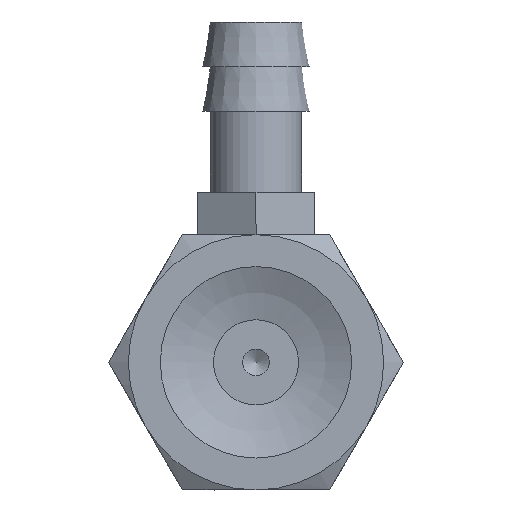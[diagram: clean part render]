
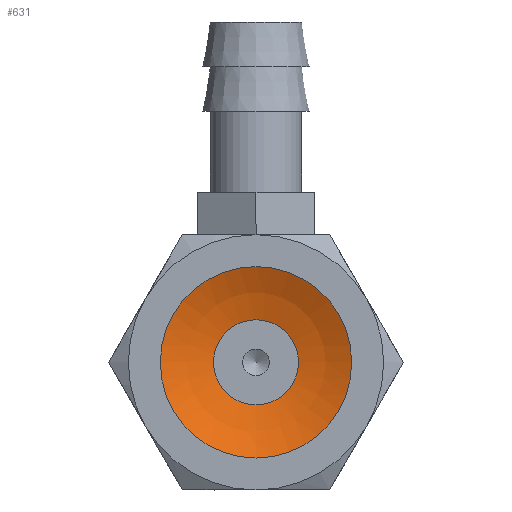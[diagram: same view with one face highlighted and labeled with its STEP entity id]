
A CAD part, front view. The second image highlights one B-rep face of the part: STEP entity #631.
In plain terms, the highlighted spherical face has radius 10.203 mm.
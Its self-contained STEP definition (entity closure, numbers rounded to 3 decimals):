
#631=ADVANCED_FACE('',(#954,#955),#956,.F.);
#954=FACE_OUTER_BOUND('',#1342,.T.);
#955=FACE_OUTER_BOUND('',#1343,.T.);
#956=SPHERICAL_SURFACE('',#1344,10.203);
#1342=EDGE_LOOP('',(#2221));
#1343=EDGE_LOOP('',(#2222));
#1344=AXIS2_PLACEMENT_3D('',#2223,#2224,#2225);
#2221=ORIENTED_EDGE('',*,*,#2637,.T.);
#2222=ORIENTED_EDGE('',*,*,#2638,.F.);
#2223=CARTESIAN_POINT('',(0.,-9.157,0.));
#2224=DIRECTION('',(0.0,-1.0,0.));
#2225=DIRECTION('',(1.0,0.0,0.0));
#2637=EDGE_CURVE('',#3040,#3040,#3041,.T.);
#2638=EDGE_CURVE('',#3042,#3042,#3043,.T.);
#3040=VERTEX_POINT('',#4062);
#3041=CIRCLE('',#4063,4.5);
#3042=VERTEX_POINT('',#4064);
#3043=CIRCLE('',#4065,2.);
#4062=CARTESIAN_POINT('',(0.0,0.,-4.5));
#4063=AXIS2_PLACEMENT_3D('',#4483,#4484,#4485);
#4064=CARTESIAN_POINT('',(0.0,0.848,-2.));
#4065=AXIS2_PLACEMENT_3D('',#4486,#4487,#4488);
#4483=CARTESIAN_POINT('',(0.0,0.,0.0));
#4484=DIRECTION('',(0.0,-1.0,0.));
#4485=DIRECTION('',(0.0,0.,-1.0));
#4486=CARTESIAN_POINT('',(0.0,0.848,0.0));
#4487=DIRECTION('',(0.0,-1.0,0.));
#4488=DIRECTION('',(0.0,0.,-1.0));
